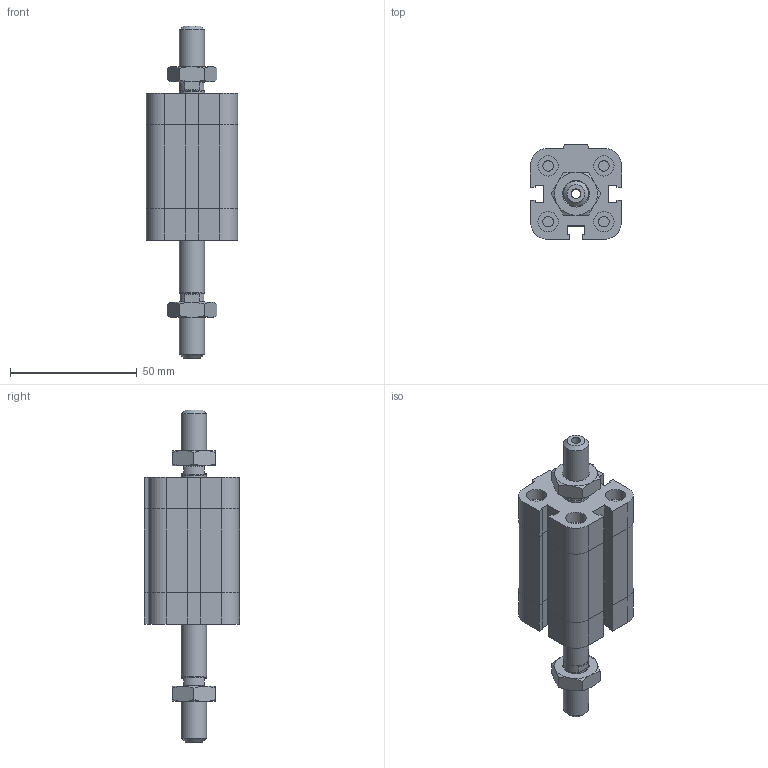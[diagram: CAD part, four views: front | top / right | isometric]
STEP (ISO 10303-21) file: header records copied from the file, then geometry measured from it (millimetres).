
FILE_DESCRIPTION((''),'2;1');
FILE_NAME('I:\Area Tecnica\Disegni\VARIE-3D\Componenti\EUROPE\15##_###_####_05_#\1581_20_0020_05_1.iam.stp','2009-04-20T14:59:50',(''),(''),'Autodesk Inventor 2009','Autodesk Inventor 2009','');
FILE_SCHEMA(('AUTOMOTIVE_DESIGN { 1 0 10303 214 1 1 1 1 }'));
Length unit declared in the file: millimetre
Products named in the file (4): 1581_20_0020_05_1; 1581_20_0020_03_1_C; 1561_20_0020_05_1_S; DBFM10
Assembly tree (4 placements, depth 2):
  1581_20_0020_05_1
    1581_20_0020_03_1_C
    1561_20_0020_05_1_S
    DBFM10  x2
Bounding box: 36 x 37.5 x 131 mm (x, y, z)
Volume: 70366.4 mm3; surface area: 24374.9 mm2
Topology: 4 solids, 4 shells, 223 faces, 486 edges, 291 vertices
Faces by surface type: plane 129, cone 35, bspline 34, cylinder 25
Full cylindrical faces by diameter (mm): 4.134 x4, 7.9 x1, 8 x4, 9.8 x2, 10 x2
Entity records: 5497 total; most frequent: CARTESIAN_POINT 1244, DIRECTION 806, ORIENTED_EDGE 776, EDGE_CURVE 388, AXIS2_PLACEMENT_3D 274, EDGE_LOOP 262, VECTOR 258, LINE 258
